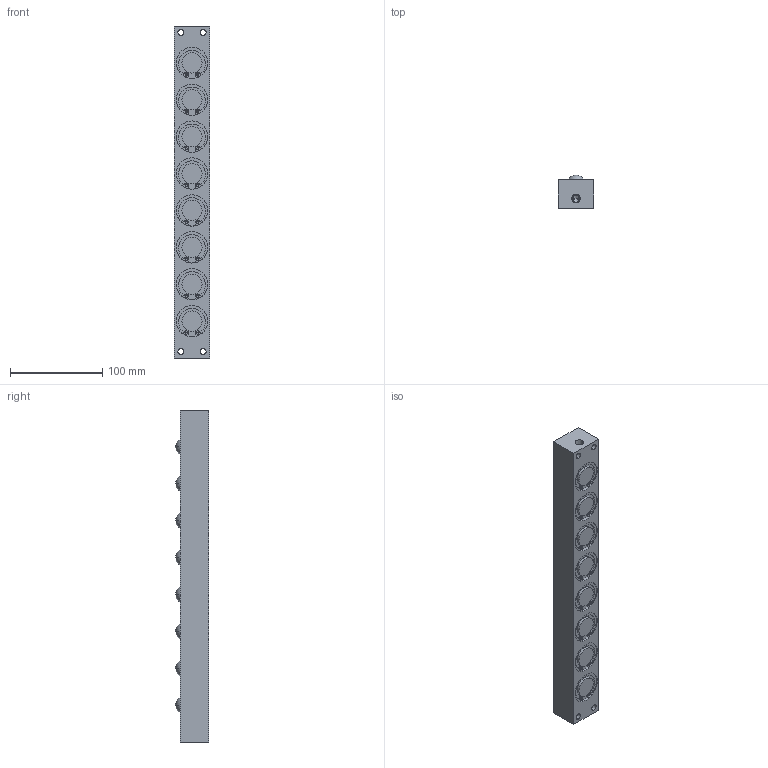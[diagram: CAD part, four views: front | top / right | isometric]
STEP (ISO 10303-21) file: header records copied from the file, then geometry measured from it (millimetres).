
FILE_DESCRIPTION (( 'STEP AP203' ), '1' );
FILE_NAME ('PVL30S-8.STEP', '2016-01-05T04:59:50', ( '' ), ( '' ), 'SwSTEP 2.0', 'SolidWorks 2013', '' );
FILE_SCHEMA (( 'CONFIG_CONTROL_DESIGN' ));
Length unit declared in the file: millimetre
Products named in the file (1): PVL30S-8
Bounding box: 38 x 36 x 360 mm (x, y, z)
Volume: 413985.5 mm3; surface area: 67065.5 mm2
Topology: 1 solids, 1 shells, 281 faces, 660 edges, 441 vertices
Faces by surface type: cylinder 178, plane 83, sphere 16, cone 4
Entity records: 8369 total; most frequent: DIRECTION 1630, CARTESIAN_POINT 1381, ORIENTED_EDGE 1316, AXIS2_PLACEMENT_3D 690, EDGE_CURVE 658, VERTEX_POINT 441, CIRCLE 408, EDGE_LOOP 351
